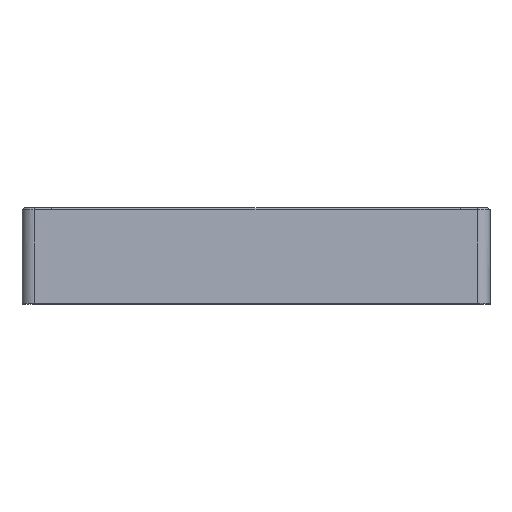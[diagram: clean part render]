
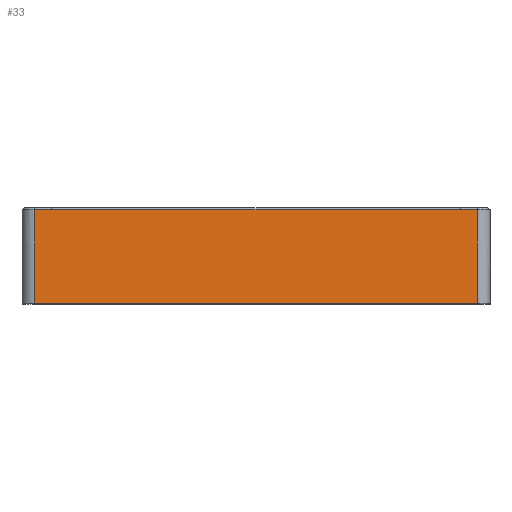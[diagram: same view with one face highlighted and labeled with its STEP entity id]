
A CAD part, top view. The second image highlights one B-rep face of the part: STEP entity #33.
In plain terms, the highlighted planar face has unit normal (0, 0.052, 0.999).
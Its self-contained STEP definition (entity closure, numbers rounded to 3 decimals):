
#33 = ADVANCED_FACE ( 'NONE', ( #832 ), #831, .T. ) ;
#34 = EDGE_LOOP ( 'NONE', ( #35, #39, #71, #74 ) ) ;
#35 = ORIENTED_EDGE ( 'NONE', *, *, #36, .T. ) ;
#36 = EDGE_CURVE ( 'NONE', #37, #38, #829, .T. ) ;
#37 = VERTEX_POINT ( 'NONE', #927 ) ;
#38 = VERTEX_POINT ( 'NONE', #926 ) ;
#39 = ORIENTED_EDGE ( 'NONE', *, *, #40, .T. ) ;
#40 = EDGE_CURVE ( 'NONE', #38, #41, #925, .T. ) ;
#41 = VERTEX_POINT ( 'NONE', #921 ) ;
#71 = ORIENTED_EDGE ( 'NONE', *, *, #72, .T. ) ;
#72 = EDGE_CURVE ( 'NONE', #41, #73, #945, .T. ) ;
#73 = VERTEX_POINT ( 'NONE', #941 ) ;
#74 = ORIENTED_EDGE ( 'NONE', *, *, #75, .T. ) ;
#75 = EDGE_CURVE ( 'NONE', #73, #37, #940, .T. ) ;
#822 = DIRECTION ( 'NONE',  ( 0., 0.999, -0.052 ) ) ;
#823 = VECTOR ( 'NONE', #822, 1000. ) ;
#824 = CARTESIAN_POINT ( 'NONE',  ( 61.5, 0., 90. ) ) ;
#826 = DIRECTION ( 'NONE',  ( 0., -0.999, 0.052 ) ) ;
#827 = DIRECTION ( 'NONE',  ( 0., 0.052, 0.999 ) ) ;
#828 = AXIS2_PLACEMENT_3D ( 'NONE', #830, #827, #826 ) ;
#829 = LINE ( 'NONE', #824, #823 ) ;
#830 = CARTESIAN_POINT ( 'NONE',  ( 0., 0., 90. ) ) ;
#831 = PLANE ( 'NONE',  #828 ) ;
#832 = FACE_OUTER_BOUND ( 'NONE', #34, .T. ) ;
#921 = CARTESIAN_POINT ( 'NONE',  ( -61.5, 25.967, 88.639 ) ) ;
#922 = DIRECTION ( 'NONE',  ( -1., 0., 0. ) ) ;
#923 = VECTOR ( 'NONE', #922, 1000. ) ;
#924 = CARTESIAN_POINT ( 'NONE',  ( -61.5, 25.967, 88.639 ) ) ;
#925 = LINE ( 'NONE', #924, #923 ) ;
#926 = CARTESIAN_POINT ( 'NONE',  ( 61.5, 25.967, 88.639 ) ) ;
#927 = CARTESIAN_POINT ( 'NONE',  ( 61.5, 0., 90. ) ) ;
#937 = DIRECTION ( 'NONE',  ( 1., 0., 0. ) ) ;
#938 = VECTOR ( 'NONE', #937, 1000. ) ;
#939 = CARTESIAN_POINT ( 'NONE',  ( 0., 0., 90. ) ) ;
#940 = LINE ( 'NONE', #939, #938 ) ;
#941 = CARTESIAN_POINT ( 'NONE',  ( -61.5, 0., 90. ) ) ;
#942 = DIRECTION ( 'NONE',  ( 0., -0.999, 0.052 ) ) ;
#943 = VECTOR ( 'NONE', #942, 1000. ) ;
#944 = CARTESIAN_POINT ( 'NONE',  ( -61.5, 0., 90. ) ) ;
#945 = LINE ( 'NONE', #944, #943 ) ;
